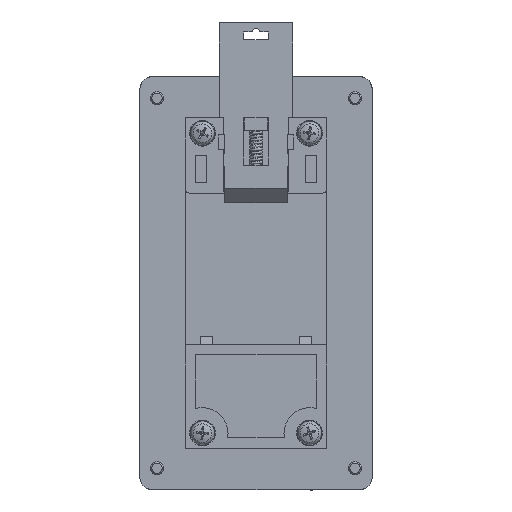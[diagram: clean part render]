
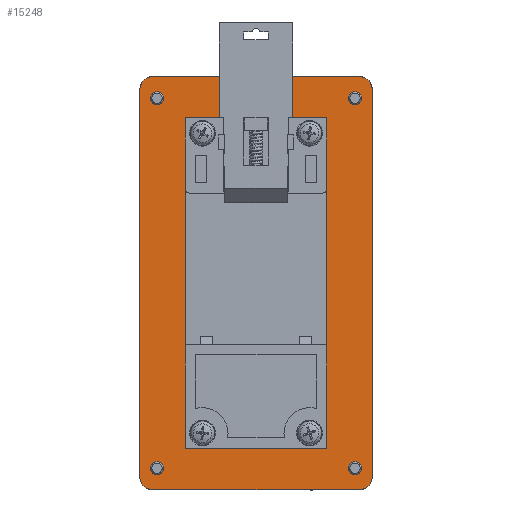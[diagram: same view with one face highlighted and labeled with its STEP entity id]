
A CAD part, top view. The second image highlights one B-rep face of the part: STEP entity #15248.
In plain terms, the highlighted planar face has unit normal (0, 0, 1).
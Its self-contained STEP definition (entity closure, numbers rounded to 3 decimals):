
#662=CIRCLE('',#16397,1.5);
#664=CIRCLE('',#16400,1.5);
#666=CIRCLE('',#16403,1.5);
#668=CIRCLE('',#16406,1.5);
#669=CIRCLE('',#16408,3.);
#678=CIRCLE('',#16420,3.);
#679=CIRCLE('',#16423,3.);
#680=CIRCLE('',#16426,3.);
#681=CIRCLE('',#16428,1.5);
#682=CIRCLE('',#16430,1.5);
#683=CIRCLE('',#16432,1.5);
#684=CIRCLE('',#16434,1.5);
#1106=FACE_BOUND('',#2974,.T.);
#1107=FACE_BOUND('',#2975,.T.);
#1108=FACE_BOUND('',#2976,.T.);
#1109=FACE_BOUND('',#2977,.T.);
#1110=FACE_BOUND('',#2978,.T.);
#1111=FACE_BOUND('',#2979,.T.);
#1112=FACE_BOUND('',#2980,.T.);
#1113=FACE_BOUND('',#2981,.T.);
#1948=FACE_OUTER_BOUND('',#2973,.T.);
#2973=EDGE_LOOP('',(#13575,#13576,#13577,#13578,#13579,#13580,#13581,#13582));
#2974=EDGE_LOOP('',(#13583));
#2975=EDGE_LOOP('',(#13584));
#2976=EDGE_LOOP('',(#13585));
#2977=EDGE_LOOP('',(#13586));
#2978=EDGE_LOOP('',(#13587));
#2979=EDGE_LOOP('',(#13588));
#2980=EDGE_LOOP('',(#13589));
#2981=EDGE_LOOP('',(#13590));
#4594=LINE('',#26507,#6164);
#4600=LINE('',#26535,#6170);
#4603=LINE('',#26543,#6173);
#4605=LINE('',#26561,#6175);
#6164=VECTOR('',#20270,48.);
#6170=VECTOR('',#20298,90.);
#6173=VECTOR('',#20307,48.);
#6175=VECTOR('',#20331,90.);
#7491=VERTEX_POINT('',#26476);
#7493=VERTEX_POINT('',#26481);
#7495=VERTEX_POINT('',#26486);
#7497=VERTEX_POINT('',#26491);
#7498=VERTEX_POINT('',#26494);
#7499=VERTEX_POINT('',#26495);
#7503=VERTEX_POINT('',#26505);
#7513=VERTEX_POINT('',#26529);
#7514=VERTEX_POINT('',#26533);
#7515=VERTEX_POINT('',#26537);
#7516=VERTEX_POINT('',#26541);
#7517=VERTEX_POINT('',#26545);
#7518=VERTEX_POINT('',#26549);
#7519=VERTEX_POINT('',#26552);
#7520=VERTEX_POINT('',#26555);
#7521=VERTEX_POINT('',#26558);
#9528=EDGE_CURVE('',#7491,#7491,#662,.T.);
#9530=EDGE_CURVE('',#7493,#7493,#664,.T.);
#9532=EDGE_CURVE('',#7495,#7495,#666,.T.);
#9534=EDGE_CURVE('',#7497,#7497,#668,.T.);
#9535=EDGE_CURVE('',#7498,#7499,#669,.T.);
#9541=EDGE_CURVE('',#7503,#7498,#4594,.T.);
#9552=EDGE_CURVE('',#7513,#7503,#678,.T.);
#9555=EDGE_CURVE('',#7514,#7513,#4600,.T.);
#9556=EDGE_CURVE('',#7515,#7514,#679,.T.);
#9559=EDGE_CURVE('',#7516,#7515,#4603,.T.);
#9560=EDGE_CURVE('',#7517,#7516,#680,.T.);
#9562=EDGE_CURVE('',#7518,#7518,#681,.T.);
#9563=EDGE_CURVE('',#7519,#7519,#682,.T.);
#9564=EDGE_CURVE('',#7520,#7520,#683,.T.);
#9565=EDGE_CURVE('',#7521,#7521,#684,.T.);
#9566=EDGE_CURVE('',#7499,#7517,#4605,.T.);
#13575=ORIENTED_EDGE('',*,*,#9535,.F.);
#13576=ORIENTED_EDGE('',*,*,#9541,.F.);
#13577=ORIENTED_EDGE('',*,*,#9552,.F.);
#13578=ORIENTED_EDGE('',*,*,#9555,.F.);
#13579=ORIENTED_EDGE('',*,*,#9556,.F.);
#13580=ORIENTED_EDGE('',*,*,#9559,.F.);
#13581=ORIENTED_EDGE('',*,*,#9560,.F.);
#13582=ORIENTED_EDGE('',*,*,#9566,.F.);
#13583=ORIENTED_EDGE('',*,*,#9528,.T.);
#13584=ORIENTED_EDGE('',*,*,#9530,.T.);
#13585=ORIENTED_EDGE('',*,*,#9532,.T.);
#13586=ORIENTED_EDGE('',*,*,#9534,.T.);
#13587=ORIENTED_EDGE('',*,*,#9562,.T.);
#13588=ORIENTED_EDGE('',*,*,#9563,.T.);
#13589=ORIENTED_EDGE('',*,*,#9564,.T.);
#13590=ORIENTED_EDGE('',*,*,#9565,.T.);
#14456=PLANE('',#16436);
#15248=ADVANCED_FACE('',(#1948,#1106,#1107,#1108,#1109,#1110,#1111,#1112,
#1113),#14456,.T.);
#16397=AXIS2_PLACEMENT_3D('',#26477,#20238,#20239);
#16400=AXIS2_PLACEMENT_3D('',#26482,#20244,#20245);
#16403=AXIS2_PLACEMENT_3D('',#26487,#20250,#20251);
#16406=AXIS2_PLACEMENT_3D('',#26492,#20256,#20257);
#16408=AXIS2_PLACEMENT_3D('',#26496,#20260,#20261);
#16420=AXIS2_PLACEMENT_3D('',#26530,#20292,#20293);
#16423=AXIS2_PLACEMENT_3D('',#26538,#20301,#20302);
#16426=AXIS2_PLACEMENT_3D('',#26546,#20310,#20311);
#16428=AXIS2_PLACEMENT_3D('',#26550,#20315,#20316);
#16430=AXIS2_PLACEMENT_3D('',#26553,#20319,#20320);
#16432=AXIS2_PLACEMENT_3D('',#26556,#20323,#20324);
#16434=AXIS2_PLACEMENT_3D('',#26559,#20327,#20328);
#16436=AXIS2_PLACEMENT_3D('',#26562,#20332,#20333);
#20238=DIRECTION('center_axis',(0.,0.,-1.));
#20239=DIRECTION('ref_axis',(-1.,0.,0.));
#20244=DIRECTION('center_axis',(0.,0.,-1.));
#20245=DIRECTION('ref_axis',(-1.,0.,0.));
#20250=DIRECTION('center_axis',(0.,0.,-1.));
#20251=DIRECTION('ref_axis',(-1.,0.,0.));
#20256=DIRECTION('center_axis',(0.,0.,-1.));
#20257=DIRECTION('ref_axis',(-1.,0.,0.));
#20260=DIRECTION('center_axis',(0.,0.,-1.));
#20261=DIRECTION('ref_axis',(-0.707,-0.707,0.));
#20270=DIRECTION('',(-1.,0.,0.));
#20292=DIRECTION('center_axis',(0.,0.,-1.));
#20293=DIRECTION('ref_axis',(0.707,-0.707,0.));
#20298=DIRECTION('',(0.,-1.,0.));
#20301=DIRECTION('center_axis',(0.,0.,-1.));
#20302=DIRECTION('ref_axis',(0.707,0.707,0.));
#20307=DIRECTION('',(1.,0.,0.));
#20310=DIRECTION('center_axis',(0.,0.,-1.));
#20311=DIRECTION('ref_axis',(-0.707,0.707,0.));
#20315=DIRECTION('center_axis',(0.,0.,-1.));
#20316=DIRECTION('ref_axis',(-1.,0.,0.));
#20319=DIRECTION('center_axis',(0.,0.,-1.));
#20320=DIRECTION('ref_axis',(-1.,0.,0.));
#20323=DIRECTION('center_axis',(0.,0.,-1.));
#20324=DIRECTION('ref_axis',(-1.,0.,0.));
#20327=DIRECTION('center_axis',(0.,0.,-1.));
#20328=DIRECTION('ref_axis',(-1.,0.,0.));
#20331=DIRECTION('',(0.,1.,0.));
#20332=DIRECTION('center_axis',(0.,0.,1.));
#20333=DIRECTION('ref_axis',(1.,0.,0.));
#26476=CARTESIAN_POINT('',(-11.,-35.,3.));
#26477=CARTESIAN_POINT('Origin',(-12.5,-35.,3.));
#26481=CARTESIAN_POINT('',(-11.,35.,3.));
#26482=CARTESIAN_POINT('Origin',(-12.5,35.,3.));
#26486=CARTESIAN_POINT('',(14.,35.,3.));
#26487=CARTESIAN_POINT('Origin',(12.5,35.,3.));
#26491=CARTESIAN_POINT('',(14.,-35.,3.));
#26492=CARTESIAN_POINT('Origin',(12.5,-35.,3.));
#26494=CARTESIAN_POINT('',(-24.,-48.,3.));
#26495=CARTESIAN_POINT('',(-27.,-45.,3.));
#26496=CARTESIAN_POINT('Origin',(-24.,-45.,3.));
#26505=CARTESIAN_POINT('',(24.,-48.,3.));
#26507=CARTESIAN_POINT('',(27.,-48.,3.));
#26529=CARTESIAN_POINT('',(27.,-45.,3.));
#26530=CARTESIAN_POINT('Origin',(24.,-45.,3.));
#26533=CARTESIAN_POINT('',(27.,45.,3.));
#26535=CARTESIAN_POINT('',(27.,48.,3.));
#26537=CARTESIAN_POINT('',(24.,48.,3.));
#26538=CARTESIAN_POINT('Origin',(24.,45.,3.));
#26541=CARTESIAN_POINT('',(-24.,48.,3.));
#26543=CARTESIAN_POINT('',(-27.,48.,3.));
#26545=CARTESIAN_POINT('',(-27.,45.,3.));
#26546=CARTESIAN_POINT('Origin',(-24.,45.,3.));
#26549=CARTESIAN_POINT('',(-21.5,-43.,3.));
#26550=CARTESIAN_POINT('Origin',(-23.,-43.,3.));
#26552=CARTESIAN_POINT('',(-21.5,43.,3.));
#26553=CARTESIAN_POINT('Origin',(-23.,43.,3.));
#26555=CARTESIAN_POINT('',(24.5,43.,3.));
#26556=CARTESIAN_POINT('Origin',(23.,43.,3.));
#26558=CARTESIAN_POINT('',(24.5,-43.,3.));
#26559=CARTESIAN_POINT('Origin',(23.,-43.,3.));
#26561=CARTESIAN_POINT('',(-27.,-48.,3.));
#26562=CARTESIAN_POINT('Origin',(0.,0.,3.));
